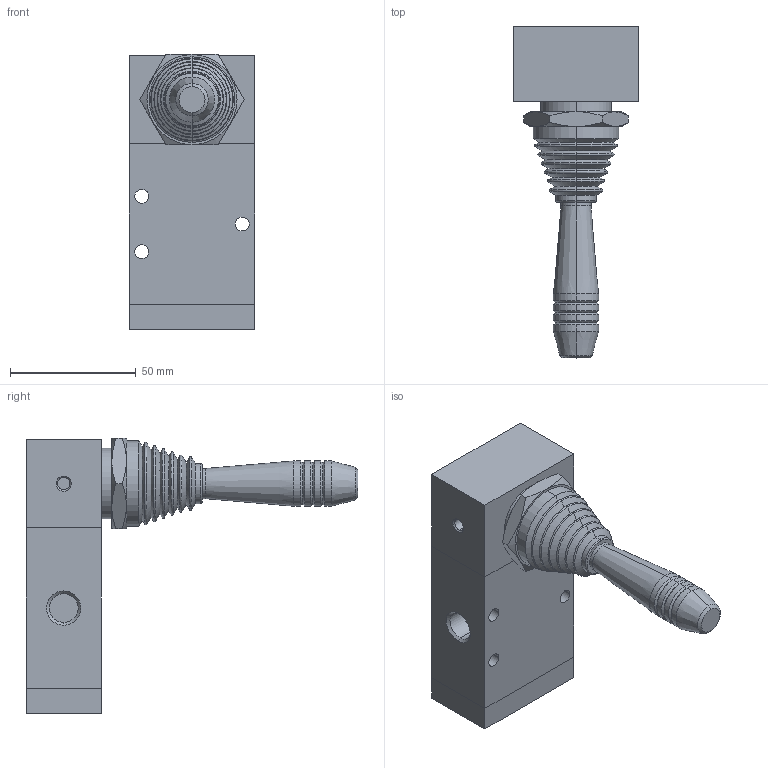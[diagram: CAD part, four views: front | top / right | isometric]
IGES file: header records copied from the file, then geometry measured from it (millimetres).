
Global section: file name: No Iges File Name specified; native system: AutoDesk Inventor R11.0; preprocessor: AutoDesk Inventor Iges Exporter R11.0; author: No Author specified; organization: No Organization specified; date: 20061220.105321; units: millimetre
Bounding box: 50 x 132 x 109.5 mm (x, y, z)
Volume: 194976.1 mm3; surface area: 33863.4 mm2
Topology: 2 solids, 2 shells, 149 faces, 316 edges, 184 vertices
Faces by surface type: cone 48, plane 31, bspline 20, cylinder 20, revolution 16, torus 14
